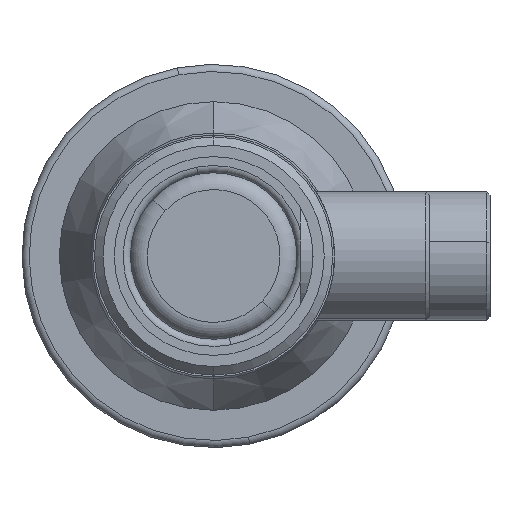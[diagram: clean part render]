
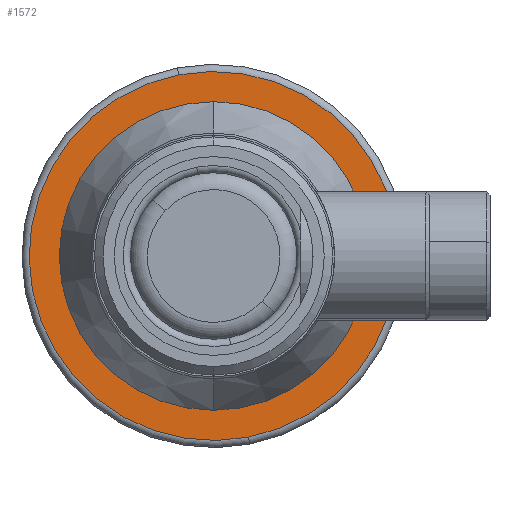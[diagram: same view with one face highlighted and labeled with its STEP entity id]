
A CAD part, front view. The second image highlights one B-rep face of the part: STEP entity #1572.
In plain terms, the highlighted planar face has unit normal (0, -1, 0).
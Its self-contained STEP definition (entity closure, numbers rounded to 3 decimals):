
#330 = VERTEX_POINT ( 'NONE', #6666 ) ;
#408 = EDGE_CURVE ( 'NONE', #16645, #15833, #14037, .T. ) ;
#485 = PLANE ( 'NONE',  #9283 ) ;
#1374 = DIRECTION ( 'NONE',  ( 0., 0., -1. ) ) ;
#1572 = ADVANCED_FACE ( 'NONE', ( #17167, #4833 ), #485, .T. ) ;
#1802 = ORIENTED_EDGE ( 'NONE', *, *, #6810, .T. ) ;
#1812 = DIRECTION ( 'NONE',  ( 0., 0., -1. ) ) ;
#2046 = AXIS2_PLACEMENT_3D ( 'NONE', #6924, #14761, #1374 ) ;
#2359 = CIRCLE ( 'NONE', #6729, 25.7 ) ;
#4078 = DIRECTION ( 'NONE',  ( 0., -1., 0. ) ) ;
#4085 = CIRCLE ( 'NONE', #2046, 19. ) ;
#4131 = CARTESIAN_POINT ( 'NONE',  ( 0., 3., 0. ) ) ;
#4473 = CARTESIAN_POINT ( 'NONE',  ( 0., 3., -25.7 ) ) ;
#4833 = FACE_BOUND ( 'NONE', #15119, .T. ) ;
#5691 = DIRECTION ( 'NONE',  ( 0., 0., -1. ) ) ;
#5807 = ORIENTED_EDGE ( 'NONE', *, *, #10429, .F. ) ;
#6415 = DIRECTION ( 'NONE',  ( 0., -1., 0. ) ) ;
#6664 = ORIENTED_EDGE ( 'NONE', *, *, #14095, .T. ) ;
#6666 = CARTESIAN_POINT ( 'NONE',  ( 0., 3., 25.7 ) ) ;
#6729 = AXIS2_PLACEMENT_3D ( 'NONE', #11465, #6415, #14317 ) ;
#6810 = EDGE_CURVE ( 'NONE', #12139, #330, #6829, .T. ) ;
#6829 = CIRCLE ( 'NONE', #7777, 25.7 ) ;
#6924 = CARTESIAN_POINT ( 'NONE',  ( 0., 3., 0. ) ) ;
#7146 = CARTESIAN_POINT ( 'NONE',  ( 0., 3., 19. ) ) ;
#7305 = ORIENTED_EDGE ( 'NONE', *, *, #408, .F. ) ;
#7566 = EDGE_LOOP ( 'NONE', ( #1802, #6664 ) ) ;
#7777 = AXIS2_PLACEMENT_3D ( 'NONE', #13270, #11984, #5691 ) ;
#9283 = AXIS2_PLACEMENT_3D ( 'NONE', #15044, #9778, #1812 ) ;
#9778 = DIRECTION ( 'NONE',  ( 0., -1., 0. ) ) ;
#9941 = CARTESIAN_POINT ( 'NONE',  ( 0., 3., -19. ) ) ;
#10281 = AXIS2_PLACEMENT_3D ( 'NONE', #4131, #4078, #13447 ) ;
#10429 = EDGE_CURVE ( 'NONE', #15833, #16645, #4085, .T. ) ;
#11465 = CARTESIAN_POINT ( 'NONE',  ( 0., 3., 0. ) ) ;
#11984 = DIRECTION ( 'NONE',  ( 0., -1., 0. ) ) ;
#12139 = VERTEX_POINT ( 'NONE', #4473 ) ;
#13270 = CARTESIAN_POINT ( 'NONE',  ( 0., 3., 0. ) ) ;
#13447 = DIRECTION ( 'NONE',  ( 0., 0., -1. ) ) ;
#14037 = CIRCLE ( 'NONE', #10281, 19. ) ;
#14095 = EDGE_CURVE ( 'NONE', #330, #12139, #2359, .T. ) ;
#14317 = DIRECTION ( 'NONE',  ( 0., 0., -1. ) ) ;
#14761 = DIRECTION ( 'NONE',  ( 0., -1., 0. ) ) ;
#15044 = CARTESIAN_POINT ( 'NONE',  ( 19., 3., 0. ) ) ;
#15119 = EDGE_LOOP ( 'NONE', ( #7305, #5807 ) ) ;
#15833 = VERTEX_POINT ( 'NONE', #7146 ) ;
#16645 = VERTEX_POINT ( 'NONE', #9941 ) ;
#17167 = FACE_OUTER_BOUND ( 'NONE', #7566, .T. ) ;
